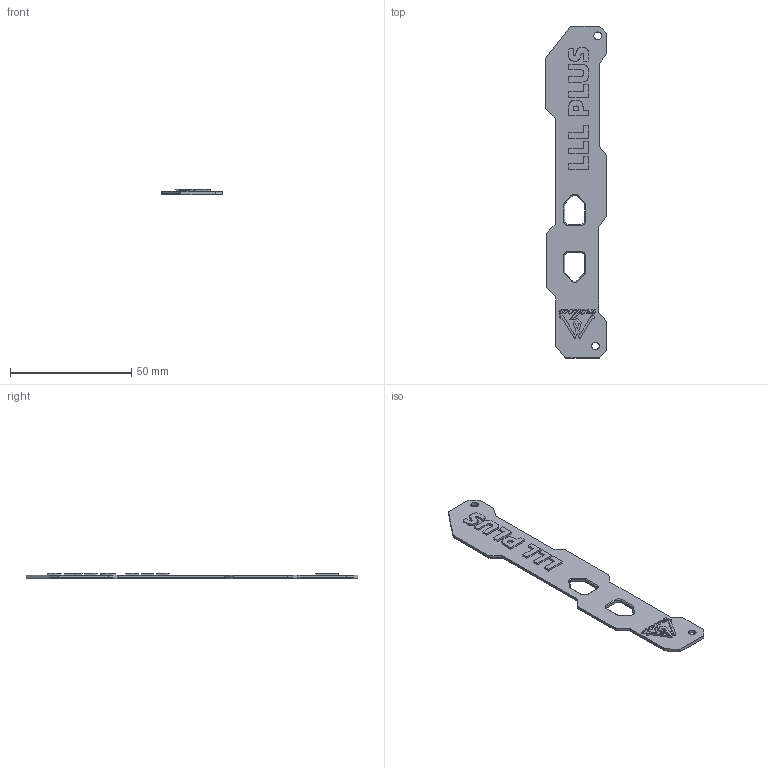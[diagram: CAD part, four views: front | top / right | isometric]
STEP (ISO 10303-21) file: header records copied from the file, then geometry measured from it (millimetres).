
FILE_DESCRIPTION((''),'2;1');
FILE_NAME('LLL_PLUS_-3','2025-04-16T16:46:13',('Mayn'),(''),'CREO PARAMETRIC BY PTC INC, 2024063','CREO PARAMETRIC BY PTC INC, 2024063','');
FILE_SCHEMA(('CONFIG_CONTROL_DESIGN'));
Length unit declared in the file: millimetre
Products named in the file (1): LLL_PLUS_-3
Bounding box: 25.38 x 137 x 2.17 mm (x, y, z)
Volume: 3789.4 mm3; surface area: 6002.6 mm2
Topology: 1 solids, 1 shells, 190 faces, 588 edges, 411 vertices
Faces by surface type: plane 127, extrusion 34, cylinder 19, cone 10
Entity records: 8138 total; most frequent: CARTESIAN_POINT 3011, ORIENTED_EDGE 1176, DIRECTION 850, EDGE_CURVE 588, VECTOR 422, VERTEX_POINT 411, LINE 388, AXIS2_PLACEMENT_3D 214
